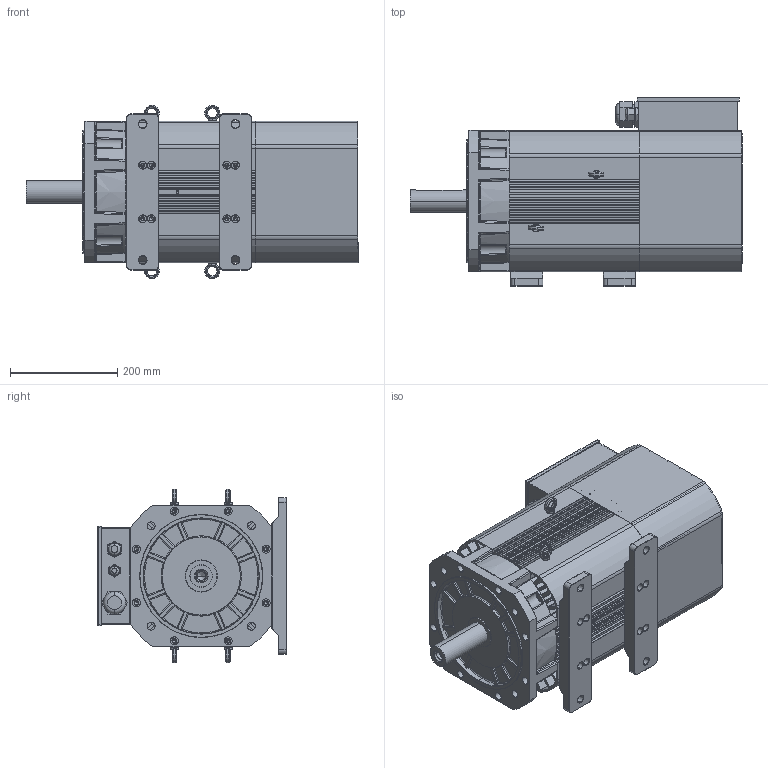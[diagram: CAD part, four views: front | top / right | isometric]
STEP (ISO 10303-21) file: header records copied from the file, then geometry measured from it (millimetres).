
FILE_DESCRIPTION (( 'STEP AP203' ), '1' );
FILE_NAME ('265M-B35-42J俋倛芞.STEP', '2022-04-15T08:26:25', ( '' ), ( '' ), 'SwSTEP 2.0', 'SolidWorks 2016', '' );
FILE_SCHEMA (( 'CONFIG_CONTROL_DESIGN' ));
Length unit declared in the file: millimetre
Products named in the file (22): 265芧埽ヶ傷裔; 265后端盖铸铁_光电编码器; 265M-B35-42J俋倛芞; cross recessed cheese head screws gb_GB_CROSS_SCREWS_TYPE2 M3X4-4  H type-N; 265瑞欶; 接线盒后盖风罩组件; 265諉盄碟裔; 諉盄碟郪璃; 齬脣晤鎢ん啣; 齬脣鼠芛; 265諉盄碟; M20X1.5蹟杶; 瑞儂諉盄翐; 265-42J-粣11kw; M8X12裂遠; M36蹟杶; M16X1.5蹟杶; 265M儂褲15KW; ヶ裔42J粣郪璃; 265菁褐
Assembly tree (30 placements, depth 5):
  265M-B35-42J俋倛芞
    265M儂褲15KW
    ヶ裔42J粣郪璃
      265芧埽ヶ傷裔
      265-42J-粣11kw
    接线盒后盖风罩组件
      265后端盖铸铁_光电编码器
      265瑞欶
      諉盄碟郪璃
        265諉盄碟
        M36蹟杶
        M16X1.5蹟杶
        M20X1.5蹟杶
        265諉盄碟裔
        瑞儂諉盄翐
          瑞儂諉盄翐
          cross recessed cheese head screws gb_GB_CROSS_SCREWS_TYPE2 M3X4-4  H type-N  x6
        齬脣晤鎢ん啣
          齬脣晤鎢ん啣
          齬脣鼠芛
    M8X12裂遠  x4
    265菁褐  x2
Bounding box: 620 x 352.5 x 324 mm (x, y, z)
Volume: 7583325.6 mm3; surface area: 2307760.1 mm2
Topology: 25 solids, 25 shells, 2560 faces, 6767 edges, 4202 vertices
Faces by surface type: cylinder 1079, plane 876, cone 215, torus 184, bspline 126, sphere 80
Entity records: 76054 total; most frequent: CARTESIAN_POINT 17796, DIRECTION 12176, ORIENTED_EDGE 11478, EDGE_CURVE 5739, AXIS2_PLACEMENT_3D 4651, VERTEX_POINT 3625, LINE 2874, VECTOR 2874
